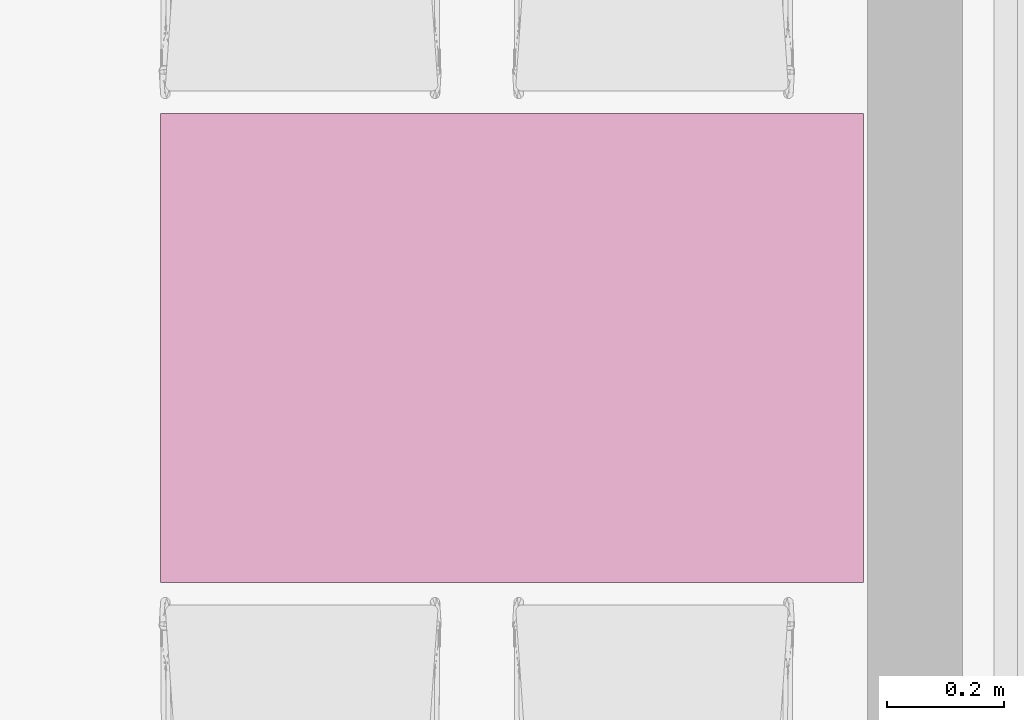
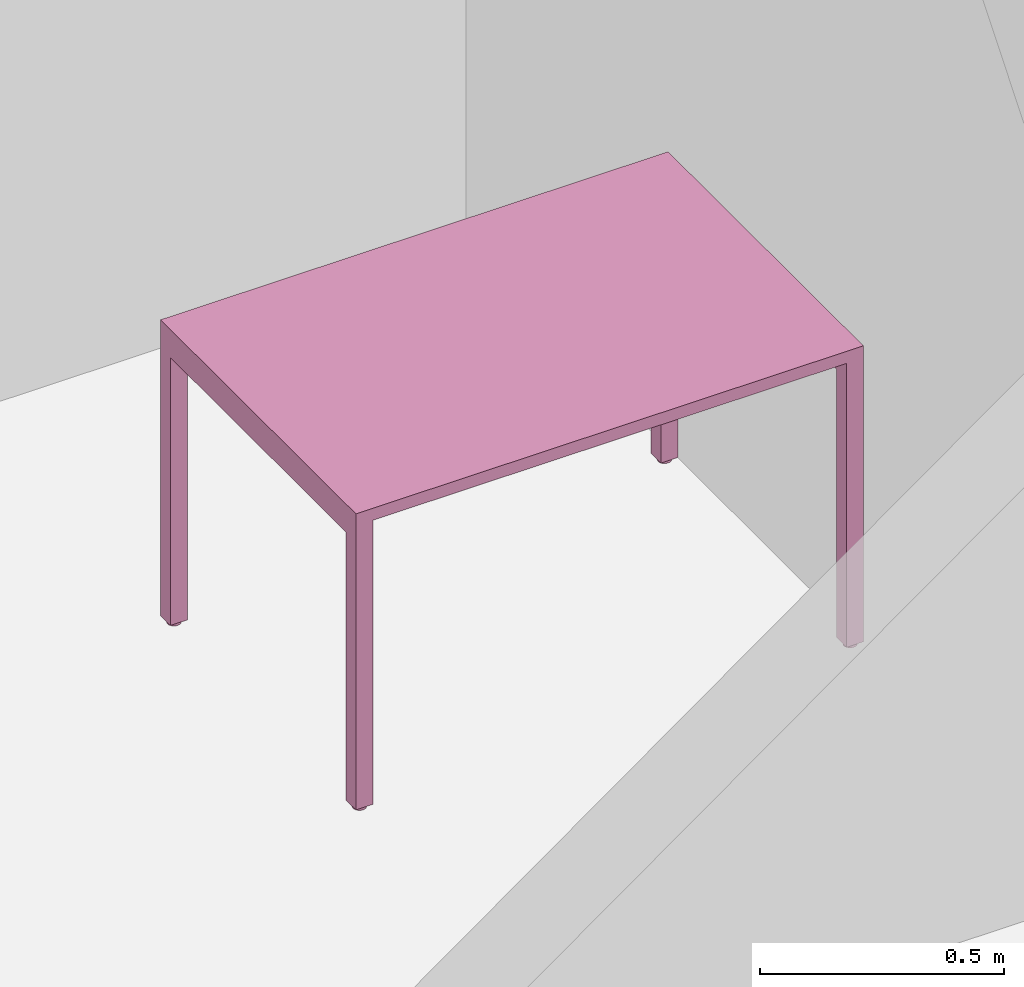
# One storey, part 27 of 48: 1 furnishing.
"""IFC2X3 building model written with IfcOpenShell, lengths in millimetres."""

from ifc_helpers import new_model, entity, si_unit, converted_unit, derived_unit, direction, frame, frame_2d, origin, origin_2d_with_axis, place, context, subcontext, project, spatial, polyline, rectangle, circle, outline, extrude, source, transform, mapped, material, material_list, type_object, type_shapes, element, save


model = new_model("IFC2X3")

# Units and contexts
model_context = context("Model", 3, precision=0.01, world=origin(), true_north=direction((6.12303176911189e-17, 1.0)))
body_context = subcontext(model_context, "Body", "Model", "MODEL_VIEW")
ifc_project = project(units=[si_unit("LENGTHUNIT", "METRE", prefix="MILLI"), si_unit("AREAUNIT", "SQUARE_METRE"), si_unit("VOLUMEUNIT", "CUBIC_METRE"), converted_unit("PLANEANGLEUNIT", "DEGREE", entity("IfcRatioMeasure", 0.0174532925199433), si_unit("PLANEANGLEUNIT", "RADIAN"), dimensions=[0, 0, 0, 0, 0, 0, 0]), si_unit("MASSUNIT", "GRAM", prefix="KILO"), derived_unit("MASSDENSITYUNIT", [(si_unit("MASSUNIT", "GRAM", prefix="KILO"), 1), (si_unit("LENGTHUNIT", "METRE"), -3)]), si_unit("TIMEUNIT", "SECOND"), si_unit("FREQUENCYUNIT", "HERTZ"), si_unit("THERMODYNAMICTEMPERATUREUNIT", "DEGREE_CELSIUS"), derived_unit("THERMALTRANSMITTANCEUNIT", [(si_unit("MASSUNIT", "GRAM", prefix="KILO"), 1), (si_unit("THERMODYNAMICTEMPERATUREUNIT", "KELVIN"), -1), (si_unit("TIMEUNIT", "SECOND"), -3)]), derived_unit("VOLUMETRICFLOWRATEUNIT", [(si_unit("LENGTHUNIT", "METRE"), 3), (si_unit("TIMEUNIT", "SECOND"), -1)]), si_unit("ELECTRICCURRENTUNIT", "AMPERE"), si_unit("ELECTRICVOLTAGEUNIT", "VOLT"), si_unit("POWERUNIT", "WATT"), si_unit("FORCEUNIT", "NEWTON", prefix="KILO"), si_unit("ILLUMINANCEUNIT", "LUX"), si_unit("LUMINOUSFLUXUNIT", "LUMEN"), si_unit("LUMINOUSINTENSITYUNIT", "CANDELA"), derived_unit("USERDEFINED", [(si_unit("MASSUNIT", "GRAM", prefix="KILO"), -1), (si_unit("LENGTHUNIT", "METRE"), -2), (si_unit("TIMEUNIT", "SECOND"), 3), (si_unit("LUMINOUSFLUXUNIT", "LUMEN"), 1)]), derived_unit("LINEARVELOCITYUNIT", [(si_unit("LENGTHUNIT", "METRE"), 1), (si_unit("TIMEUNIT", "SECOND"), -1)]), si_unit("PRESSUREUNIT", "PASCAL"), derived_unit("USERDEFINED", [(si_unit("LENGTHUNIT", "METRE"), -2), (si_unit("MASSUNIT", "GRAM", prefix="KILO"), 1), (si_unit("TIMEUNIT", "SECOND"), -2)]), derived_unit("LINEARFORCEUNIT", [(si_unit("MASSUNIT", "GRAM", prefix="KILO"), 1), (si_unit("LENGTHUNIT", "METRE"), 1), (si_unit("TIMEUNIT", "SECOND"), -2), (si_unit("LENGTHUNIT", "METRE"), -1)]), derived_unit("PLANARFORCEUNIT", [(si_unit("MASSUNIT", "GRAM", prefix="KILO"), 1), (si_unit("LENGTHUNIT", "METRE"), 1), (si_unit("TIMEUNIT", "SECOND"), -2), (si_unit("LENGTHUNIT", "METRE"), -2)])], contexts=[model_context])

# Site, building, storey, space
site_placement = place(None, origin())
site = spatial("IfcSite", under=ifc_project, at=site_placement, Name="Default", CompositionType="ELEMENT")
building_placement = place(site_placement, origin())
building = spatial("IfcBuilding", under=site, at=building_placement, Name="SMA ARH", CompositionType="ELEMENT")
storey_placement = place(building_placement, frame((0.0, 0.0, 3300.0)))
storey = spatial("IfcBuildingStorey", under=building, at=storey_placement, Name="2 Korrus", CompositionType="ELEMENT", Elevation=3299.99999999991)
space_placement = place(storey_placement, origin())
space = spatial("IfcSpace", under=storey, at=space_placement, Name="2-16", CompositionType="ELEMENT", InteriorOrExteriorSpace="INTERNAL")

# Furnishing
ifc_material_1 = material(Name="Metal - Stud Layer")
ifc_material_2 = material(Name="<Unnamed>")
ifc_material_list = material_list([ifc_material_1, ifc_material_2])
furniture_type = type_object("IfcFurnitureType", Name="laud_1200x800:laud_1200x800", material=ifc_material_list)
shared_shape = source(origin(), body_context, "Body", "SweptSolid", [
    extrude(rectangle(XDim=800.0, YDim=1200.0, at=origin_2d_with_axis()), frame((-150.0, 550.0, 720.0), z_axis=(0.0, 0.0, 1.0), x_axis=(-1.0, 0.0, 0.0)), (0.0, 0.0, 1.0), 29.9999999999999),
    extrude(outline(polyline([(-400.0, -365.0), (400.0, -365.0), (400.0, 345.0), (360.0, 345.0), (360.0, -325.0), (-360.0, -325.0), (-360.0, 345.0), (-400.0, 345.0), (-400.0, -365.0)])), frame((-150.0, -50.0, 355.0), z_axis=(0.0, 1.0, 0.0), x_axis=(1.0, 0.0, 0.0)), (0.0, 0.0, 1.0), 40.0000000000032),
    extrude(outline(polyline([(-400.0, -365.0), (400.0, -365.0), (400.0, 345.0), (360.0, 345.0), (360.0, -325.0), (-360.0, -325.0), (-360.0, 345.0), (-400.0, 345.0), (-400.0, -365.0)])), frame((-150.0, 1110.0, 355.0), z_axis=(0.0, 1.0, 0.0), x_axis=(1.0, 0.0, 0.0)), (0.0, 0.0, 1.0), 40.0000000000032),
    extrude(circle(Radius=15.0, at=frame_2d((0.0, 5.07593966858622e-14), x_axis=(1.0, 0.0))), frame((-529.847171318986, -29.9550233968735, 0.0)), (0.0, 0.0, 1.0), 10.0),
    extrude(circle(Radius=15.0, at=origin_2d_with_axis()), frame((-529.847171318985, 1129.95502339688, 0.0)), (0.0, 0.0, 1.0), 10.0),
    extrude(circle(Radius=15.0, at=origin_2d_with_axis()), frame((230.152828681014, -29.9550233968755, 0.0)), (0.0, 0.0, 1.0), 10.0),
    extrude(circle(Radius=15.0, at=origin_2d_with_axis()), frame((230.152828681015, 1129.95502339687, 0.0)), (0.0, 0.0, 1.0), 10.0),
])
type_shapes(furniture_type, [shared_shape])
furnishing_placement = place(space_placement, frame((16101.2909917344, 4910.0, 0.0), z_axis=(0.0, 0.0, 1.0), x_axis=(0.0, 1.0, 0.0)))
element("IfcFurnishingElement", 1, at=furnishing_placement, inside=space, type_object=furniture_type, material=ifc_material_1, Name="laud_1200x800:laud_1200x800", ObjectType="laud_1200x800:laud_1200x800", context=body_context, shape_type="MappedRepresentation", body=[
    mapped(shared_shape, transform((0.0, 0.0, 0.0), scale=1.0)),
])

save(model, "model.ifc")
